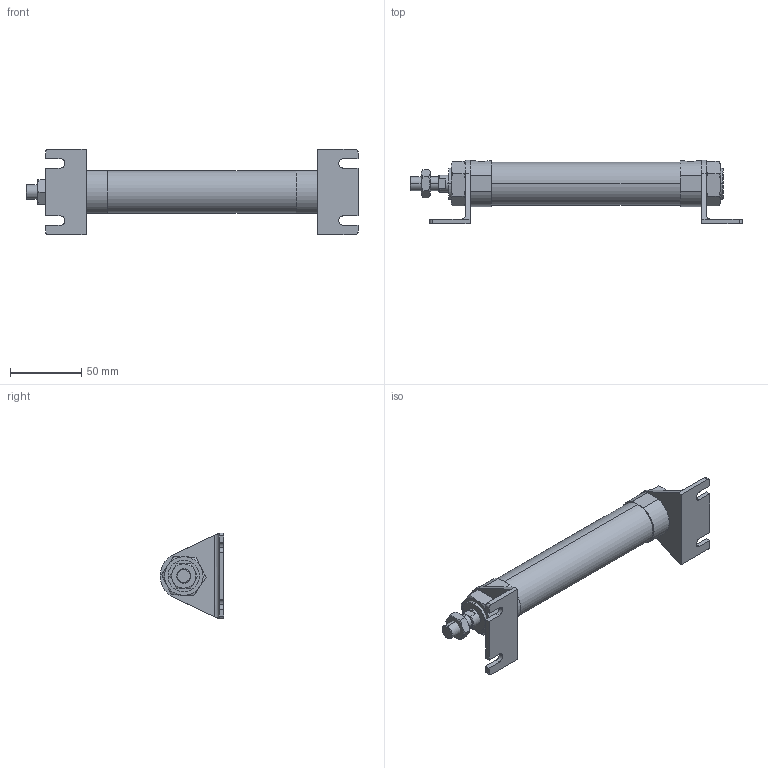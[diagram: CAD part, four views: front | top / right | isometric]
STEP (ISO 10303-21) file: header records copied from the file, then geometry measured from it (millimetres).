
FILE_DESCRIPTION (( 'STEP AP203' ), '1' );
FILE_NAME ('J#2-25-100-L.STEP', '2016-03-10T00:54:44', ( '' ), ( '' ), 'SwSTEP 2.0', 'SolidWorks 2014', '' );
FILE_SCHEMA (( 'CONFIG_CONTROL_DESIGN' ));
Length unit declared in the file: millimetre
Products named in the file (5): J#2-25-100-L; J#2-25-100; J#2-25-L
Assembly tree (6 placements, depth 2):
  J#2-25-100-L
    J#2-25-100
    (unnamed)
    (unnamed)  x2
    J#2-25-L  x2
Bounding box: 232.2 x 44.5 x 60 mm (x, y, z)
Volume: 153190.2 mm3; surface area: 39504.9 mm2
Topology: 6 solids, 6 shells, 171 faces, 402 edges, 246 vertices
Faces by surface type: plane 75, cylinder 50, torus 36, cone 10
Entity records: 4351 total; most frequent: CARTESIAN_POINT 1030, DIRECTION 588, ORIENTED_EDGE 560, EDGE_CURVE 280, AXIS2_PLACEMENT_3D 234, VERTEX_POINT 172, EDGE_LOOP 136, ADVANCED_FACE 123
